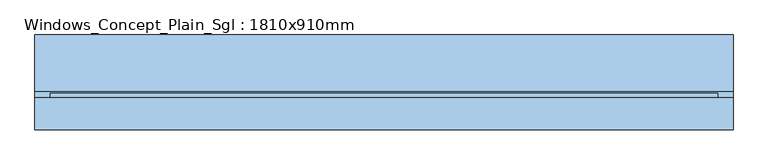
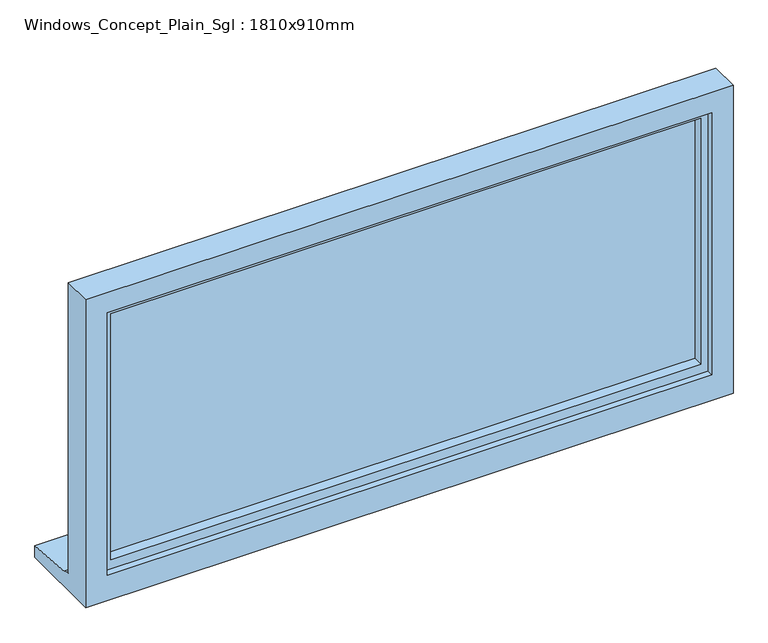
"""IFC4 building model written with IfcOpenShell, lengths in millimetres: window geometry, Windows_Concept_Plain_Sgl : 1810x910mm."""

from ifc_helpers import new_model, si_unit, frame, origin, place, context, project, spatial, polyline, outline, extrude, faceted_brep, source, transform, mapped, element, save


def windows_concept_plain_sgl_1810x910mm_a9162c4a(model_context):
    return source(origin(), model_context, "Body", "SolidModel", [
        faceted_brep([(-905.0, -49.5434322, 1200.0), (905.0, -49.5434322, 1200.0), (905.0, -49.5434322, 2110.0), (-905.0, -49.5434322, 2110.0), (-845.0, -49.5434322, 2050.0), (845.0, -49.5434322, 2050.0), (845.0, -49.5434322, 1275.0), (-845.0, -49.5434322, 1275.0), (-905.0, 33.4565678, 2110.0), (-905.0, 33.4565678, 1251.0), (-905.0, 48.4565678, 1249.68767), (-905.0, 48.4565678, 1244.7449676), (-905.0, 195.9565678, 1233.8088847), (-905.0, 195.9565678, 1200.0), (905.0, 33.4565678, 2110.0), (905.0, 33.4565678, 1251.0), (-865.0, 33.4565678, 2070.0), (-865.0, 33.4565678, 1263.0), (865.0, 33.4565678, 1263.0), (865.0, 33.4565678, 2070.0), (-865.0, -31.5434322, 2070.0), (-865.0, -31.5434322, 1263.0), (865.0, -31.5434322, 2070.0), (865.0, -31.5434322, 1263.0), (-845.0, -31.5434322, 2050.0), (-845.0, -31.5434322, 1275.0), (845.0, -31.5434322, 1275.0), (845.0, -31.5434322, 2050.0), (905.0, 195.9565678, 1200.0), (905.0, 195.9565678, 1233.8088847), (905.0, 48.4565678, 1244.7449676), (905.0, 48.4565678, 1249.68767)], [[[0, 1, 2, 3], [4, 5, 6, 7]], [[0, 3, 8, 9, 10, 11, 12, 13]], [[9, 8, 14, 15], [16, 17, 18, 19]], [[17, 16, 20, 21]], [[20, 22, 23, 21], [24, 25, 26, 27]], [[24, 4, 7, 25]], [[3, 2, 14, 8]], [[16, 19, 22, 20]], [[5, 4, 24, 27]], [[15, 14, 2, 1, 28, 29, 30, 31]], [[19, 18, 23, 22]], [[5, 27, 26, 6]], [[28, 1, 0, 13]], [[29, 28, 13, 12]], [[30, 29, 12, 11]], [[31, 30, 11, 10]], [[15, 31, 10, 9]], [[21, 23, 18, 17]], [[7, 6, 26, 25]]]),
        extrude(outline(polyline([(835.0, -2.5434322), (-835.0, -2.5434322), (-835.0, 21.4565678), (835.0, 21.4565678), (835.0, -2.5434322)])), frame((0.0, 0.0, 1293.0), z_axis=(0.0, 0.0, 1.0), x_axis=(1.0, 0.0, 0.0)), (0.0, 0.0, 1.0), 747.0),
        faceted_brep([(-865.0, -31.5434322, 2070.0), (-865.0, 45.0035732, 2070.0), (-865.0, 45.0035732, 1263.0), (-865.0, -31.5434322, 1263.0), (-825.0, -2.5434322, 2030.0), (-825.0, -31.5434322, 2030.0), (-825.0, -31.5434322, 1303.0), (-825.0, -2.5434322, 1303.0), (-835.0, 21.4565678, 2040.0), (-835.0, -2.5434322, 2040.0), (-835.0, -2.5434322, 1293.0), (-835.0, 21.4565678, 1293.0), (-825.0, 45.0035732, 2030.0), (-825.0, 21.4565678, 2030.0), (-825.0, 21.4565678, 1303.0), (-825.0, 45.0035732, 1303.0), (865.0, 45.0035732, 1263.0), (865.0, -31.5434322, 1263.0), (825.0, -31.5434322, 1303.0), (825.0, -2.5434322, 1303.0), (835.0, -2.5434322, 1293.0), (835.0, 21.4565678, 1293.0), (825.0, 21.4565678, 1303.0), (825.0, 45.0035732, 1303.0), (865.0, 45.0035732, 2070.0), (865.0, -31.5434322, 2070.0), (825.0, -31.5434322, 2030.0), (825.0, -2.5434322, 2030.0), (835.0, -2.5434322, 2040.0), (835.0, 21.4565678, 2040.0), (825.0, 21.4565678, 2030.0), (825.0, 45.0035732, 2030.0)], [[[0, 1, 2, 3]], [[4, 5, 6, 7]], [[8, 9, 10, 11]], [[12, 13, 14, 15]], [[3, 2, 16, 17]], [[7, 6, 18, 19]], [[11, 10, 20, 21]], [[15, 14, 22, 23]], [[17, 16, 24, 25]], [[19, 18, 26, 27]], [[21, 20, 28, 29]], [[23, 22, 30, 31]], [[1, 24, 16, 2], [15, 23, 31, 12]], [[25, 24, 1, 0]], [[3, 17, 25, 0], [5, 26, 18, 6]], [[27, 26, 5, 4]], [[9, 28, 20, 10], [7, 19, 27, 4]], [[29, 28, 9, 8]], [[11, 21, 29, 8], [13, 30, 22, 14]], [[31, 30, 13, 12]]]),
    ])


if __name__ == "__main__":
    model = new_model("IFC4")
    model_context = context("Model", 3, world=origin())
    ifc_project = project(units=[si_unit("LENGTHUNIT", "METRE", prefix="MILLI")], contexts=[model_context])
    site = spatial("IfcSite", under=ifc_project)
    building = spatial("IfcBuilding", under=site)
    placement = place(None, origin())
    windows_concept_plain_sgl_1810x910mm_shape = windows_concept_plain_sgl_1810x910mm_a9162c4a(model_context)
    element("IfcWindow", 1, ObjectType="Windows_Concept_Plain_Sgl : 1810x910mm", at=placement, inside=building, context=model_context, shape_type="MappedRepresentation", body=[
        mapped(windows_concept_plain_sgl_1810x910mm_shape, transform((0.0, 0.0, 0.0), x_axis=(1.0, 0.0, 0.0), y_axis=(0.0, 1.0, 0.0), z_axis=(0.0, 0.0, 1.0))),
    ])
    save(model, "model.ifc")
